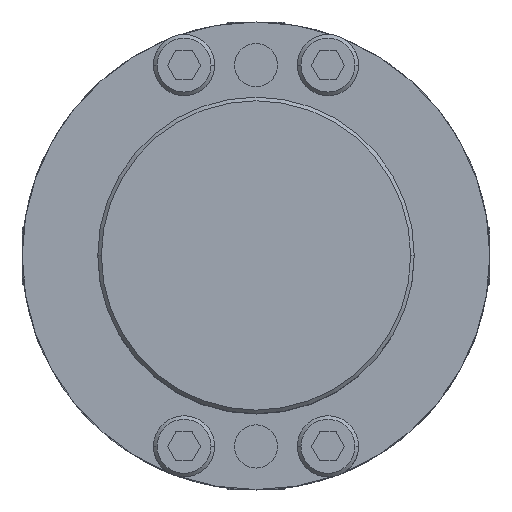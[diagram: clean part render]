
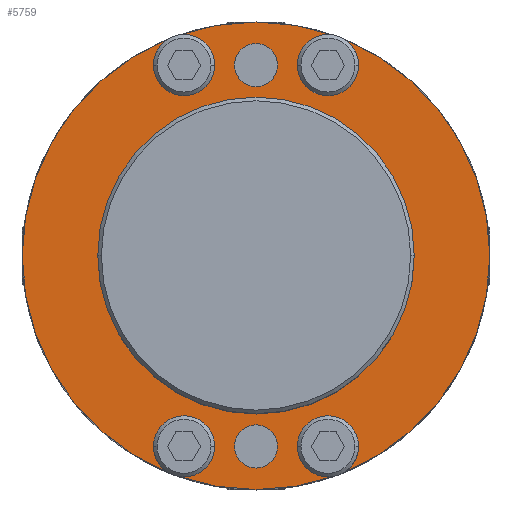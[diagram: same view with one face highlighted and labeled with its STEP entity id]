
A CAD part, top view. The second image highlights one B-rep face of the part: STEP entity #5759.
In plain terms, the highlighted planar face has unit normal (0, 0, 1).
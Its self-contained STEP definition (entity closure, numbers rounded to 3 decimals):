
#1193=CARTESIAN_POINT('',(-22.0,0.,16.5));
#1194=VERTEX_POINT('',#1193);
#1203=CARTESIAN_POINT('',(22.0,0.,16.5));
#1204=VERTEX_POINT('',#1203);
#1205=CARTESIAN_POINT('',(0.,0.0,16.5));
#1206=DIRECTION('',(0.0,0.0,-1.0));
#1207=DIRECTION('',(-1.0,0.0,0.0));
#1208=AXIS2_PLACEMENT_3D('',#1205,#1206,#1207);
#1209=CIRCLE('',#1208,22.0);
#1210=EDGE_CURVE('',#1204,#1194,#1209,.T.);
#1269=CARTESIAN_POINT('',(5.75,-26.5,16.5));
#1270=VERTEX_POINT('',#1269);
#1286=CARTESIAN_POINT('',(14.25,-26.5,16.5));
#1287=VERTEX_POINT('',#1286);
#1294=CARTESIAN_POINT('',(10.,-26.5,16.5));
#1295=DIRECTION('',(0.0,0.0,-1.0));
#1296=DIRECTION('',(-1.0,0.0,0.0));
#1297=AXIS2_PLACEMENT_3D('',#1294,#1295,#1296);
#1298=CIRCLE('',#1297,4.25);
#1299=EDGE_CURVE('',#1270,#1287,#1298,.T.);
#1343=CARTESIAN_POINT('',(-14.25,-26.5,16.5));
#1344=VERTEX_POINT('',#1343);
#1360=CARTESIAN_POINT('',(-5.75,-26.5,16.5));
#1361=VERTEX_POINT('',#1360);
#1368=CARTESIAN_POINT('',(-10.,-26.5,16.5));
#1369=DIRECTION('',(0.0,0.0,-1.0));
#1370=DIRECTION('',(-1.0,0.0,0.0));
#1371=AXIS2_PLACEMENT_3D('',#1368,#1369,#1370);
#1372=CIRCLE('',#1371,4.25);
#1373=EDGE_CURVE('',#1344,#1361,#1372,.T.);
#1417=CARTESIAN_POINT('',(5.75,26.5,16.5));
#1418=VERTEX_POINT('',#1417);
#1434=CARTESIAN_POINT('',(14.25,26.5,16.5));
#1435=VERTEX_POINT('',#1434);
#1442=CARTESIAN_POINT('',(12.262,30.098,16.5));
#1443=VERTEX_POINT('',#1442);
#1444=CARTESIAN_POINT('',(10.,26.5,16.5));
#1445=DIRECTION('',(0.0,0.0,-1.0));
#1446=DIRECTION('',(-1.0,0.0,0.0));
#1447=AXIS2_PLACEMENT_3D('',#1444,#1445,#1446);
#1448=CIRCLE('',#1447,4.25);
#1449=EDGE_CURVE('',#1443,#1435,#1448,.T.);
#1451=CARTESIAN_POINT('',(10.679,30.695,16.5));
#1452=VERTEX_POINT('',#1451);
#1460=CARTESIAN_POINT('',(10.,26.5,16.5));
#1461=DIRECTION('',(0.0,0.0,-1.0));
#1462=DIRECTION('',(-1.0,0.0,0.0));
#1463=AXIS2_PLACEMENT_3D('',#1460,#1461,#1462);
#1464=CIRCLE('',#1463,4.25);
#1465=EDGE_CURVE('',#1418,#1452,#1464,.T.);
#1509=CARTESIAN_POINT('',(-14.25,26.5,16.5));
#1510=VERTEX_POINT('',#1509);
#1526=CARTESIAN_POINT('',(-5.75,26.5,16.5));
#1527=VERTEX_POINT('',#1526);
#1534=CARTESIAN_POINT('',(-10.679,30.695,16.5));
#1535=VERTEX_POINT('',#1534);
#1536=CARTESIAN_POINT('',(-10.,26.5,16.5));
#1537=DIRECTION('',(0.0,0.0,-1.0));
#1538=DIRECTION('',(-1.0,0.0,0.0));
#1539=AXIS2_PLACEMENT_3D('',#1536,#1537,#1538);
#1540=CIRCLE('',#1539,4.25);
#1541=EDGE_CURVE('',#1535,#1527,#1540,.T.);
#1543=CARTESIAN_POINT('',(-12.262,30.098,16.5));
#1544=VERTEX_POINT('',#1543);
#1552=CARTESIAN_POINT('',(-10.,26.5,16.5));
#1553=DIRECTION('',(0.0,0.0,-1.0));
#1554=DIRECTION('',(-1.0,0.0,0.0));
#1555=AXIS2_PLACEMENT_3D('',#1552,#1553,#1554);
#1556=CIRCLE('',#1555,4.25);
#1557=EDGE_CURVE('',#1510,#1544,#1556,.T.);
#1601=CARTESIAN_POINT('',(-32.5,0.,16.5));
#1602=VERTEX_POINT('',#1601);
#1668=CARTESIAN_POINT('',(32.5,0.,16.5));
#1669=VERTEX_POINT('',#1668);
#1676=CARTESIAN_POINT('',(12.262,-30.098,16.5));
#1677=VERTEX_POINT('',#1676);
#1678=CARTESIAN_POINT('',(0.,0.0,16.5));
#1679=DIRECTION('',(0.0,0.0,-1.0));
#1680=DIRECTION('',(-1.0,0.0,0.0));
#1681=AXIS2_PLACEMENT_3D('',#1678,#1679,#1680);
#1682=CIRCLE('',#1681,32.5);
#1683=EDGE_CURVE('',#1669,#1677,#1682,.T.);
#1685=CARTESIAN_POINT('',(10.679,-30.695,16.5));
#1686=VERTEX_POINT('',#1685);
#1694=CARTESIAN_POINT('',(-10.679,-30.695,16.5));
#1695=VERTEX_POINT('',#1694);
#1696=CARTESIAN_POINT('',(0.,0.0,16.5));
#1697=DIRECTION('',(0.0,0.0,-1.0));
#1698=DIRECTION('',(-1.0,0.0,0.0));
#1699=AXIS2_PLACEMENT_3D('',#1696,#1697,#1698);
#1700=CIRCLE('',#1699,32.5);
#1701=EDGE_CURVE('',#1686,#1695,#1700,.T.);
#1703=CARTESIAN_POINT('',(-12.262,-30.098,16.5));
#1704=VERTEX_POINT('',#1703);
#1712=CARTESIAN_POINT('',(0.,0.0,16.5));
#1713=DIRECTION('',(0.0,0.0,-1.0));
#1714=DIRECTION('',(-1.0,0.0,0.0));
#1715=AXIS2_PLACEMENT_3D('',#1712,#1713,#1714);
#1716=CIRCLE('',#1715,32.5);
#1717=EDGE_CURVE('',#1704,#1602,#1716,.T.);
#1727=CARTESIAN_POINT('',(-3.,26.5,16.5));
#1728=VERTEX_POINT('',#1727);
#1737=CARTESIAN_POINT('',(3.,26.5,16.5));
#1738=VERTEX_POINT('',#1737);
#1739=CARTESIAN_POINT('',(0.,26.5,16.5));
#1740=DIRECTION('',(0.0,0.0,-1.0));
#1741=DIRECTION('',(-1.0,0.0,0.0));
#1742=AXIS2_PLACEMENT_3D('',#1739,#1740,#1741);
#1743=CIRCLE('',#1742,3.0);
#1744=EDGE_CURVE('',#1738,#1728,#1743,.T.);
#1769=CARTESIAN_POINT('',(-3.,-26.5,16.5));
#1770=VERTEX_POINT('',#1769);
#1779=CARTESIAN_POINT('',(3.,-26.5,16.5));
#1780=VERTEX_POINT('',#1779);
#1781=CARTESIAN_POINT('',(0.,-26.5,16.5));
#1782=DIRECTION('',(0.0,0.0,-1.0));
#1783=DIRECTION('',(-1.0,0.0,0.0));
#1784=AXIS2_PLACEMENT_3D('',#1781,#1782,#1783);
#1785=CIRCLE('',#1784,3.0);
#1786=EDGE_CURVE('',#1780,#1770,#1785,.T.);
#4198=CARTESIAN_POINT('',(0.,-26.5,16.5));
#4199=DIRECTION('',(0.0,0.0,-1.0));
#4200=DIRECTION('',(-1.0,0.0,0.0));
#4201=AXIS2_PLACEMENT_3D('',#4198,#4199,#4200);
#4202=CIRCLE('',#4201,3.0);
#4203=EDGE_CURVE('',#1770,#1780,#4202,.T.);
#4222=CARTESIAN_POINT('',(0.,26.5,16.5));
#4223=DIRECTION('',(0.0,0.0,-1.0));
#4224=DIRECTION('',(-1.0,0.0,0.0));
#4225=AXIS2_PLACEMENT_3D('',#4222,#4223,#4224);
#4226=CIRCLE('',#4225,3.0);
#4227=EDGE_CURVE('',#1728,#1738,#4226,.T.);
#4395=CARTESIAN_POINT('',(0.,0.0,16.5));
#4396=DIRECTION('',(0.0,0.0,-1.0));
#4397=DIRECTION('',(-1.0,0.0,0.0));
#4398=AXIS2_PLACEMENT_3D('',#4395,#4396,#4397);
#4399=CIRCLE('',#4398,32.5);
#4400=EDGE_CURVE('',#1602,#1544,#4399,.T.);
#4409=CARTESIAN_POINT('',(0.,0.0,16.5));
#4410=DIRECTION('',(0.0,0.0,-1.0));
#4411=DIRECTION('',(-1.0,0.0,0.0));
#4412=AXIS2_PLACEMENT_3D('',#4409,#4410,#4411);
#4413=CIRCLE('',#4412,32.5);
#4414=EDGE_CURVE('',#1535,#1452,#4413,.T.);
#4423=CARTESIAN_POINT('',(0.,0.0,16.5));
#4424=DIRECTION('',(0.0,0.0,-1.0));
#4425=DIRECTION('',(-1.0,0.0,0.0));
#4426=AXIS2_PLACEMENT_3D('',#4423,#4424,#4425);
#4427=CIRCLE('',#4426,32.5);
#4428=EDGE_CURVE('',#1443,#1669,#4427,.T.);
#5365=CARTESIAN_POINT('',(-10.,26.5,16.5));
#5366=DIRECTION('',(0.0,0.0,-1.0));
#5367=DIRECTION('',(-1.0,0.0,0.0));
#5368=AXIS2_PLACEMENT_3D('',#5365,#5366,#5367);
#5369=CIRCLE('',#5368,4.25);
#5370=EDGE_CURVE('',#1527,#1510,#5369,.T.);
#5425=CARTESIAN_POINT('',(10.,26.5,16.5));
#5426=DIRECTION('',(0.0,0.0,-1.0));
#5427=DIRECTION('',(-1.0,0.0,0.0));
#5428=AXIS2_PLACEMENT_3D('',#5425,#5426,#5427);
#5429=CIRCLE('',#5428,4.25);
#5430=EDGE_CURVE('',#1435,#1418,#5429,.T.);
#5485=CARTESIAN_POINT('',(-10.,-26.5,16.5));
#5486=DIRECTION('',(0.0,0.0,-1.0));
#5487=DIRECTION('',(-1.0,0.0,0.0));
#5488=AXIS2_PLACEMENT_3D('',#5485,#5486,#5487);
#5489=CIRCLE('',#5488,4.25);
#5490=EDGE_CURVE('',#1704,#1344,#5489,.T.);
#5499=CARTESIAN_POINT('',(-10.,-26.5,16.5));
#5500=DIRECTION('',(0.0,0.0,-1.0));
#5501=DIRECTION('',(-1.0,0.0,0.0));
#5502=AXIS2_PLACEMENT_3D('',#5499,#5500,#5501);
#5503=CIRCLE('',#5502,4.25);
#5504=EDGE_CURVE('',#1361,#1695,#5503,.T.);
#5559=CARTESIAN_POINT('',(10.,-26.5,16.5));
#5560=DIRECTION('',(0.0,0.0,-1.0));
#5561=DIRECTION('',(-1.0,0.0,0.0));
#5562=AXIS2_PLACEMENT_3D('',#5559,#5560,#5561);
#5563=CIRCLE('',#5562,4.25);
#5564=EDGE_CURVE('',#1686,#1270,#5563,.T.);
#5573=CARTESIAN_POINT('',(10.,-26.5,16.5));
#5574=DIRECTION('',(0.0,0.0,-1.0));
#5575=DIRECTION('',(-1.0,0.0,0.0));
#5576=AXIS2_PLACEMENT_3D('',#5573,#5574,#5575);
#5577=CIRCLE('',#5576,4.25);
#5578=EDGE_CURVE('',#1287,#1677,#5577,.T.);
#5675=CARTESIAN_POINT('',(0.,0.0,16.5));
#5676=DIRECTION('',(0.0,0.0,-1.0));
#5677=DIRECTION('',(-1.0,0.0,0.0));
#5678=AXIS2_PLACEMENT_3D('',#5675,#5676,#5677);
#5679=CIRCLE('',#5678,22.0);
#5680=EDGE_CURVE('',#1194,#1204,#5679,.T.);
#5722=CARTESIAN_POINT('',(-2.955,0.,16.5));
#5723=DIRECTION('',(0.0,0.0,1.0));
#5724=DIRECTION('',(-1.0,0.0,0.0));
#5725=AXIS2_PLACEMENT_3D('',#5722,#5723,#5724);
#5726=PLANE('',#5725);
#5727=ORIENTED_EDGE('',*,*,#5564,.T.);
#5728=ORIENTED_EDGE('',*,*,#1299,.T.);
#5729=ORIENTED_EDGE('',*,*,#5578,.T.);
#5730=ORIENTED_EDGE('',*,*,#1683,.F.);
#5731=ORIENTED_EDGE('',*,*,#4428,.F.);
#5732=ORIENTED_EDGE('',*,*,#1449,.T.);
#5733=ORIENTED_EDGE('',*,*,#5430,.T.);
#5734=ORIENTED_EDGE('',*,*,#1465,.T.);
#5735=ORIENTED_EDGE('',*,*,#4414,.F.);
#5736=ORIENTED_EDGE('',*,*,#1541,.T.);
#5737=ORIENTED_EDGE('',*,*,#5370,.T.);
#5738=ORIENTED_EDGE('',*,*,#1557,.T.);
#5739=ORIENTED_EDGE('',*,*,#4400,.F.);
#5740=ORIENTED_EDGE('',*,*,#1717,.F.);
#5741=ORIENTED_EDGE('',*,*,#5490,.T.);
#5742=ORIENTED_EDGE('',*,*,#1373,.T.);
#5743=ORIENTED_EDGE('',*,*,#5504,.T.);
#5744=ORIENTED_EDGE('',*,*,#1701,.F.);
#5745=EDGE_LOOP('',(#5727,#5728,#5729,#5730,#5731,#5732,#5733,#5734,#5735,#5736,#5737,#5738,#5739,#5740,#5741,#5742,#5743,#5744));
#5746=FACE_OUTER_BOUND('',#5745,.T.);
#5747=ORIENTED_EDGE('',*,*,#1786,.T.);
#5748=ORIENTED_EDGE('',*,*,#4203,.T.);
#5749=EDGE_LOOP('',(#5747,#5748));
#5750=FACE_BOUND('',#5749,.T.);
#5751=ORIENTED_EDGE('',*,*,#1744,.T.);
#5752=ORIENTED_EDGE('',*,*,#4227,.T.);
#5753=EDGE_LOOP('',(#5751,#5752));
#5754=FACE_BOUND('',#5753,.T.);
#5755=ORIENTED_EDGE('',*,*,#1210,.T.);
#5756=ORIENTED_EDGE('',*,*,#5680,.T.);
#5757=EDGE_LOOP('',(#5755,#5756));
#5758=FACE_BOUND('',#5757,.T.);
#5759=ADVANCED_FACE('',(#5746,#5750,#5754,#5758),#5726,.T.);
